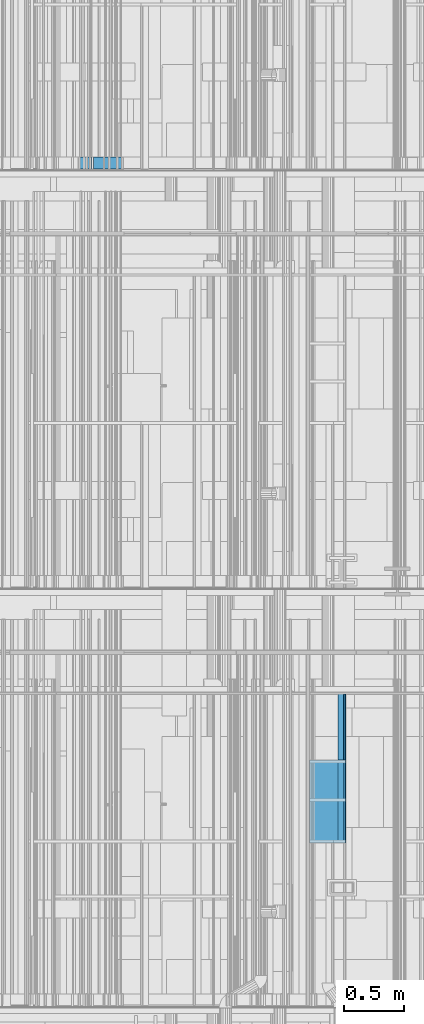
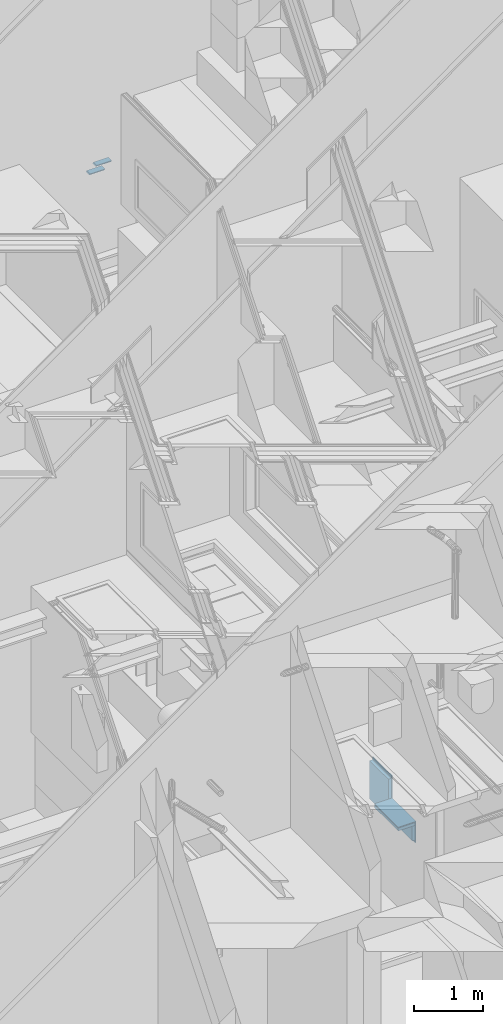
# One storey, part 216 of 583: 8 building element parts, 4 elements without a shape of their own.
"""IFC2X3 building model written with IfcOpenShell, lengths in metres."""

from ifc_helpers import new_model, entity, si_unit, converted_unit, derived_unit, money_unit, direction, frame, frame_2d, origin_with_axes, place, context, subcontext, project, spatial, polyline, rectangle, outline, extrude, material, type_object, element, aggregate, save


model = new_model("IFC2X3")

# Units and contexts
model_context = context("Model", 3, precision=1e-05, world=origin_with_axes(), true_north=direction((0.0, 1.0)))
body_context = subcontext(model_context, "Body", "Model", "MODEL_VIEW", scale=1.0)
ifc_project = project(units=[si_unit("LENGTHUNIT", "METRE"), si_unit("AREAUNIT", "SQUARE_METRE"), si_unit("VOLUMEUNIT", "CUBIC_METRE"), si_unit("ABSORBEDDOSEUNIT", "GRAY"), si_unit("AMOUNTOFSUBSTANCEUNIT", "MOLE"), si_unit("DOSEEQUIVALENTUNIT", "SIEVERT"), si_unit("ELECTRICCAPACITANCEUNIT", "FARAD"), si_unit("ELECTRICCHARGEUNIT", "COULOMB"), si_unit("ELECTRICCONDUCTANCEUNIT", "SIEMENS"), si_unit("ELECTRICCURRENTUNIT", "AMPERE"), si_unit("ELECTRICRESISTANCEUNIT", "OHM"), si_unit("ELECTRICVOLTAGEUNIT", "VOLT"), si_unit("ENERGYUNIT", "JOULE"), si_unit("FORCEUNIT", "NEWTON"), si_unit("FREQUENCYUNIT", "HERTZ"), si_unit("ILLUMINANCEUNIT", "LUX"), si_unit("INDUCTANCEUNIT", "HENRY"), si_unit("LUMINOUSFLUXUNIT", "LUMEN"), si_unit("LUMINOUSINTENSITYUNIT", "CANDELA"), si_unit("MAGNETICFLUXDENSITYUNIT", "TESLA"), si_unit("MAGNETICFLUXUNIT", "WEBER"), si_unit("MASSUNIT", "GRAM"), converted_unit("PLANEANGLEUNIT", "degree", entity("IfcReal", 0.0174532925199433), si_unit("PLANEANGLEUNIT", "RADIAN"), dimensions=[0, 0, 0, 0, 0, 0, 0]), si_unit("POWERUNIT", "WATT"), si_unit("PRESSUREUNIT", "PASCAL"), si_unit("RADIOACTIVITYUNIT", "BECQUEREL"), si_unit("SOLIDANGLEUNIT", "STERADIAN"), si_unit("THERMODYNAMICTEMPERATUREUNIT", "KELVIN"), si_unit("TIMEUNIT", "SECOND"), derived_unit("ACCELERATIONUNIT", [(si_unit("LENGTHUNIT", "METRE"), 1), (si_unit("TIMEUNIT", "SECOND"), -2)]), derived_unit("ANGULARVELOCITYUNIT", [(converted_unit("PLANEANGLEUNIT", "degree", entity("IfcReal", 0.0174532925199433), si_unit("PLANEANGLEUNIT", "RADIAN"), dimensions=[0, 0, 0, 0, 0, 0, 0]), 1), (si_unit("TIMEUNIT", "SECOND"), -1)]), derived_unit("CURVATUREUNIT", [(converted_unit("PLANEANGLEUNIT", "degree", entity("IfcReal", 0.0174532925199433), si_unit("PLANEANGLEUNIT", "RADIAN"), dimensions=[0, 0, 0, 0, 0, 0, 0]), 1), (si_unit("LENGTHUNIT", "METRE"), -1)]), derived_unit("DYNAMICVISCOSITYUNIT", [(si_unit("PRESSUREUNIT", "PASCAL"), 1), (si_unit("TIMEUNIT", "SECOND"), 1)]), derived_unit("HEATFLUXDENSITYUNIT", [(si_unit("POWERUNIT", "WATT"), 1), (si_unit("LENGTHUNIT", "METRE"), -2)]), derived_unit("HEATINGVALUEUNIT", [(si_unit("ENERGYUNIT", "JOULE"), 1), (si_unit("MASSUNIT", "GRAM"), -1)]), derived_unit("INTEGERCOUNTRATEUNIT", [(si_unit("TIMEUNIT", "SECOND"), -1)]), derived_unit("IONCONCENTRATIONUNIT", [(si_unit("MASSUNIT", "GRAM"), 1), (si_unit("VOLUMEUNIT", "CUBIC_METRE"), -1)]), derived_unit("ISOTHERMALMOISTURECAPACITYUNIT", [(si_unit("VOLUMEUNIT", "CUBIC_METRE"), 1), (si_unit("MASSUNIT", "GRAM"), -1)]), derived_unit("KINEMATICVISCOSITYUNIT", [(si_unit("AREAUNIT", "SQUARE_METRE"), 1), (si_unit("TIMEUNIT", "SECOND"), -1)]), derived_unit("LINEARFORCEUNIT", [(si_unit("FORCEUNIT", "NEWTON"), 1), (si_unit("LENGTHUNIT", "METRE"), -1)]), derived_unit("LINEARMOMENTUNIT", [(si_unit("FORCEUNIT", "NEWTON"), 1), (si_unit("LENGTHUNIT", "METRE"), -1)]), derived_unit("LINEARSTIFFNESSUNIT", [(si_unit("FORCEUNIT", "NEWTON"), 1), (si_unit("LENGTHUNIT", "METRE"), -1)]), derived_unit("LINEARVELOCITYUNIT", [(si_unit("LENGTHUNIT", "METRE"), 1), (si_unit("TIMEUNIT", "SECOND"), -1)]), derived_unit("LUMINOUSINTENSITYDISTRIBUTIONUNIT", [(si_unit("LUMINOUSINTENSITYUNIT", "CANDELA"), 1), (si_unit("LUMINOUSFLUXUNIT", "LUMEN"), -1)]), derived_unit("MASSDENSITYUNIT", [(si_unit("MASSUNIT", "GRAM"), 1), (si_unit("VOLUMEUNIT", "CUBIC_METRE"), -1)]), derived_unit("MASSFLOWRATEUNIT", [(si_unit("MASSUNIT", "GRAM"), 1), (si_unit("TIMEUNIT", "SECOND"), -1)]), derived_unit("MASSPERLENGTHUNIT", [(si_unit("MASSUNIT", "GRAM"), 1), (si_unit("LENGTHUNIT", "METRE"), -1)]), derived_unit("MODULUSOFELASTICITYUNIT", [(si_unit("FORCEUNIT", "NEWTON"), 1), (si_unit("AREAUNIT", "SQUARE_METRE"), -1)]), derived_unit("MODULUSOFLINEARSUBGRADEREACTIONUNIT", [(si_unit("FORCEUNIT", "NEWTON"), 1), (si_unit("LENGTHUNIT", "METRE"), -2)]), derived_unit("MODULUSOFROTATIONALSUBGRADEREACTIONUNIT", [(si_unit("FORCEUNIT", "NEWTON"), 1), (si_unit("LENGTHUNIT", "METRE"), 1)]), derived_unit("MODULUSOFSUBGRADEREACTIONUNIT", [(si_unit("FORCEUNIT", "NEWTON"), 1), (si_unit("VOLUMEUNIT", "CUBIC_METRE"), -1)]), derived_unit("MOISTUREDIFFUSIVITYUNIT", [(si_unit("VOLUMEUNIT", "CUBIC_METRE"), 1), (si_unit("TIMEUNIT", "SECOND"), -1)]), derived_unit("MOLECULARWEIGHTUNIT", [(si_unit("MASSUNIT", "GRAM"), 1), (si_unit("AMOUNTOFSUBSTANCEUNIT", "MOLE"), -1)]), derived_unit("PLANARFORCEUNIT", [(si_unit("FORCEUNIT", "NEWTON"), 1), (si_unit("LENGTHUNIT", "METRE"), -2)]), derived_unit("ROTATIONALFREQUENCYUNIT", [(si_unit("TIMEUNIT", "SECOND"), -1)]), derived_unit("ROTATIONALMASSUNIT", [(si_unit("MASSUNIT", "GRAM"), 1), (si_unit("LENGTHUNIT", "METRE"), 2)]), derived_unit("ROTATIONALSTIFFNESSUNIT", [(si_unit("FORCEUNIT", "NEWTON"), 1), (si_unit("LENGTHUNIT", "METRE"), 1), (converted_unit("PLANEANGLEUNIT", "degree", entity("IfcReal", 0.0174532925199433), si_unit("PLANEANGLEUNIT", "RADIAN"), dimensions=[0, 0, 0, 0, 0, 0, 0]), -1)]), derived_unit("SECTIONAREAINTEGRALUNIT", [(si_unit("LENGTHUNIT", "METRE"), 5)]), derived_unit("SECTIONMODULUSUNIT", [(si_unit("LENGTHUNIT", "METRE"), 3)]), derived_unit("SHEARMODULUSUNIT", [(si_unit("FORCEUNIT", "NEWTON"), 1), (si_unit("AREAUNIT", "SQUARE_METRE"), -1)]), derived_unit("SOUNDPOWERUNIT", [(si_unit("ENERGYUNIT", "JOULE"), 1), (si_unit("TIMEUNIT", "SECOND"), -1)]), derived_unit("SPECIFICHEATCAPACITYUNIT", [(si_unit("FORCEUNIT", "NEWTON"), 1), (si_unit("MASSUNIT", "GRAM"), -1), (si_unit("THERMODYNAMICTEMPERATUREUNIT", "KELVIN"), -1)]), derived_unit("TEMPERATUREGRADIENTUNIT", [(si_unit("THERMODYNAMICTEMPERATUREUNIT", "KELVIN"), 1), (si_unit("LENGTHUNIT", "METRE"), -1)]), derived_unit("THERMALADMITTANCEUNIT", [(si_unit("POWERUNIT", "WATT"), 1), (si_unit("AREAUNIT", "SQUARE_METRE"), -1), (si_unit("THERMODYNAMICTEMPERATUREUNIT", "KELVIN"), -1)]), derived_unit("THERMALCONDUCTANCEUNIT", [(si_unit("POWERUNIT", "WATT"), 1), (si_unit("LENGTHUNIT", "METRE"), -1), (si_unit("THERMODYNAMICTEMPERATUREUNIT", "KELVIN"), -1)]), derived_unit("THERMALEXPANSIONCOEFFICIENTUNIT", [(si_unit("THERMODYNAMICTEMPERATUREUNIT", "KELVIN"), -1)]), derived_unit("THERMALRESISTANCEUNIT", [(si_unit("AREAUNIT", "SQUARE_METRE"), 1), (si_unit("POWERUNIT", "WATT"), -1)]), derived_unit("THERMALTRANSMITTANCEUNIT", [(si_unit("POWERUNIT", "WATT"), 1), (si_unit("AREAUNIT", "SQUARE_METRE"), -1), (si_unit("THERMODYNAMICTEMPERATUREUNIT", "KELVIN"), -1)]), derived_unit("TORQUEUNIT", [(si_unit("FORCEUNIT", "NEWTON"), 1), (si_unit("LENGTHUNIT", "METRE"), 1)]), derived_unit("VAPORPERMEABILITYUNIT", [(si_unit("MASSUNIT", "GRAM"), 1), (si_unit("TIMEUNIT", "SECOND"), -1)]), derived_unit("VOLUMETRICFLOWRATEUNIT", [(si_unit("VOLUMEUNIT", "CUBIC_METRE"), 1), (si_unit("TIMEUNIT", "SECOND"), -1)]), derived_unit("WARPINGCONSTANTUNIT", [(si_unit("LENGTHUNIT", "METRE"), 6)]), derived_unit("WARPINGMOMENTUNIT", [(si_unit("FORCEUNIT", "NEWTON"), 1), (si_unit("LENGTHUNIT", "METRE"), 2)]), money_unit("GBP")], contexts=[model_context])

# Site, building, storey
site_placement = place(None, origin_with_axes())
site = spatial("IfcSite", under=ifc_project, at=site_placement, Name="Site", CompositionType="ELEMENT")
building_placement = place(site_placement, origin_with_axes())
building = spatial("IfcBuilding", under=site, at=building_placement, Name="Building01", CompositionType="ELEMENT")
storey_placement = place(building_placement, frame((0.0, 0.0, 20.78), z_axis=(0.0, 0.0, 1.0), x_axis=(1.0, 0.0, 0.0)))
storey = spatial("IfcBuildingStorey", under=building, at=storey_placement, Name="RL", CompositionType="ELEMENT", Elevation=20.78)

# Wall, building element parts
wall_type_1 = type_object("IfcWallType", Name="SHE_A-Walls_Type05c_PreWallShell_65mm", PredefinedType="NOTDEFINED")
wall_1_placement = place(storey_placement, frame((9.055, 7.215, -8.626129), z_axis=(0.0, 1.0, 0.0), x_axis=(0.0, 0.0, 1.0)))
wall_1 = element("IfcWall", 1, at=wall_1_placement, inside=storey, type_object=wall_type_1, Name="5C", ObjectType="SHE_A-Walls_Type05c_PreWallShell_65mm")
ifc_material_1 = material(Name="A_BSUK_OpeningsClearance")
placement_1 = place(wall_1_placement, origin_with_axes())
building_element_part_1 = element("IfcBuildingElementPart", 2, at=placement_1, material=ifc_material_1, Name="1", context=body_context, shape_type="SweptSolid", body=[
    extrude(rectangle(XDim=0.674714, YDim=0.05, at=frame_2d((0.337357, 0.025), x_axis=(-1.0, 0.0))), origin_with_axes(), (0.0, 0.0, 1.0), 0.55),
])
ifc_material_2 = material(Name="A_BSUK_Walls_Timber")
building_element_part_2 = element("IfcBuildingElementPart", 3, at=placement_1, material=ifc_material_2, Name="2", context=body_context, shape_type="SweptSolid", body=[
    extrude(rectangle(XDim=0.774714, YDim=0.015, at=frame_2d((0.337357, 0.0575), x_axis=(-1.0, 0.0))), origin_with_axes(), (0.0, 0.0, 1.0), 0.55),
])
aggregate(wall_1, [building_element_part_1, building_element_part_2])

wall_2_placement = place(storey_placement, frame((9.055, 6.525, -8.626129), z_axis=(0.0, 1.0, 0.0), x_axis=(0.0, 0.0, 1.0)))
wall_2 = element("IfcWall", 4, at=wall_2_placement, inside=storey, type_object=wall_type_1, Name="5C", ObjectType="SHE_A-Walls_Type05c_PreWallShell_65mm")
placement_2 = place(wall_2_placement, origin_with_axes())
building_element_part_3 = element("IfcBuildingElementPart", 5, at=placement_2, material=ifc_material_1, Name="1", context=body_context, shape_type="SweptSolid", body=[
    extrude(rectangle(XDim=0.259714, YDim=0.05, at=frame_2d((0.129857, 0.025), x_axis=(-1.0, 0.0))), origin_with_axes(), (0.0, 0.0, 1.0), 0.69),
])
building_element_part_4 = element("IfcBuildingElementPart", 6, at=placement_2, material=ifc_material_2, Name="2", context=body_context, shape_type="SweptSolid", body=[
    extrude(rectangle(XDim=0.359714, YDim=0.015, at=frame_2d((0.129857, 0.0575), x_axis=(-1.0, 0.0))), origin_with_axes(), (0.0, 0.0, 1.0), 0.69),
])
aggregate(wall_2, [building_element_part_3, building_element_part_4])

wall_3_placement = place(storey_placement, frame((9.105, 6.525, -8.366415), z_axis=(0.0, 1.0, 0.0), x_axis=(-1.0, 0.0, 0.0)))
wall_3 = element("IfcWall", 7, at=wall_3_placement, inside=storey, type_object=wall_type_1, Name="5C", ObjectType="SHE_A-Walls_Type05c_PreWallShell_65mm")
placement_3 = place(wall_3_placement, origin_with_axes())
building_element_part_5 = element("IfcBuildingElementPart", 8, at=placement_3, material=ifc_material_1, Name="1", context=body_context, shape_type="SweptSolid", body=[
    extrude(rectangle(XDim=0.285, YDim=0.05, at=frame_2d((0.1425, 0.025), x_axis=(-1.0, 0.0))), origin_with_axes(), (0.0, 0.0, 1.0), 0.69),
])
building_element_part_6 = element("IfcBuildingElementPart", 9, at=placement_3, material=ifc_material_2, Name="2", context=body_context, shape_type="SweptSolid", body=[
    extrude(rectangle(XDim=0.3, YDim=0.015, at=frame_2d((0.135, 0.0575), x_axis=(-1.0, 0.0))), origin_with_axes(), (0.0, 0.0, 1.0), 0.69),
])
aggregate(wall_3, [building_element_part_5, building_element_part_6])

wall_type_2 = type_object("IfcWallType", Name="SHE_A-Walls_Type05a_Partition_95mm_tall", PredefinedType="NOTDEFINED")
wall_4_placement = place(storey_placement, frame((6.965, 12.13, 0.602661), z_axis=(0.0, 1.0, 0.0), x_axis=(1.0, 0.0, 0.0)))
wall_4 = element("IfcWall", 10, at=wall_4_placement, inside=storey, type_object=wall_type_2, Name="5A", ObjectType="SHE_A-Walls_Type05a_Partition_95mm_tall")
placement_4 = place(wall_4_placement, origin_with_axes())
building_element_part_7 = element("IfcBuildingElementPart", 11, at=placement_4, material=ifc_material_2, Name="2", context=body_context, shape_type="SweptSolid", body=[
    extrude(outline(polyline([(0.175, 0.075), (-0.075, 0.075), (-0.06, 0.06), (0.19, 0.06), (0.175, 0.075)])), frame((0.0, 0.0, 0.015), z_axis=(0.0, 0.0, 1.0), x_axis=(1.0, 0.0, 0.0)), (0.0, 0.0, 1.0), 0.1),
])
building_element_part_8 = element("IfcBuildingElementPart", 12, at=placement_4, material=ifc_material_2, Name="3", context=body_context, shape_type="SweptSolid", body=[
    extrude(outline(polyline([(0.285, -0.035), (0.035, -0.035), (0.05, -0.05), (0.3, -0.05), (0.285, -0.035)])), frame((0.0, 0.0, 0.015), z_axis=(0.0, 0.0, 1.0), x_axis=(1.0, 0.0, 0.0)), (0.0, 0.0, 1.0), 0.1),
])
aggregate(wall_4, [building_element_part_7, building_element_part_8])

save(model, "model.ifc")
